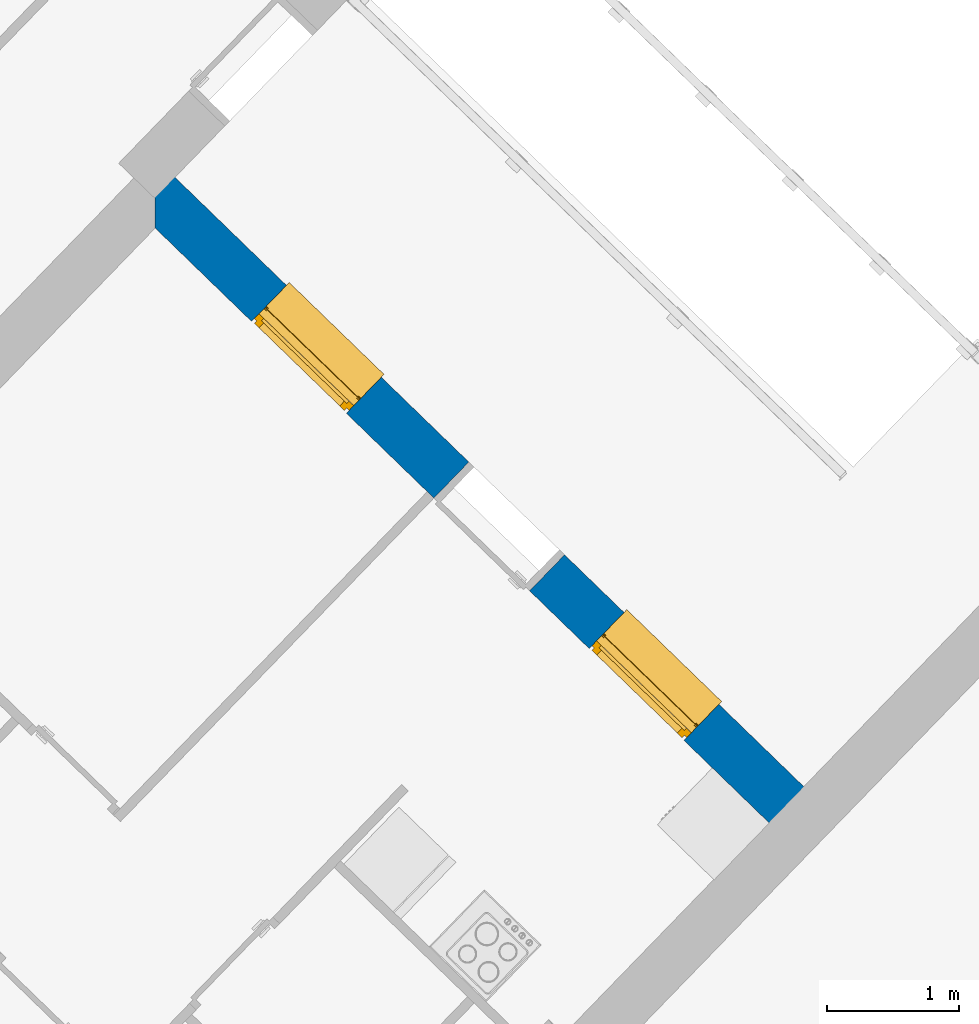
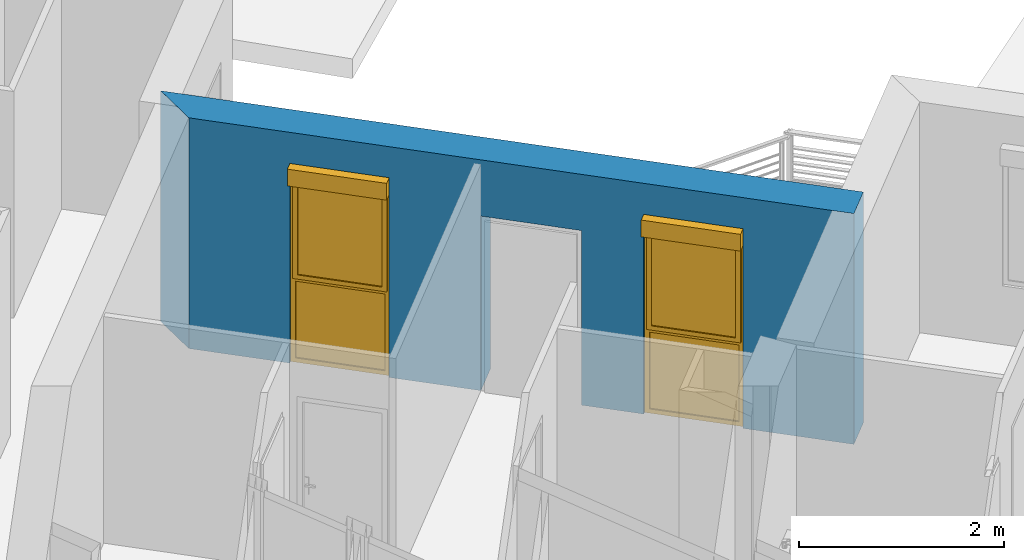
# One storey, part 16 of 121: 2 windows, 1 wall, 3 openings.
"""IFC2X3 building model written with IfcOpenShell, lengths in metres."""

import ifcopenshell
import ifcopenshell.guid

model = None  # the IFC model being written
_history = None  # IfcOwnerHistory: only IFC2X3 demands one
_inside = {}  # id of a spatial element -> (the spatial element, [elements in it])
_under = {}  # id of a project, library or spatial element -> (it, [spatial elements below it])
_declared = {}  # id of a project -> (the project, [libraries it declares])
_typed = {}  # id of a type object -> (the type object, [elements of that type])
_made_of = {}  # id of a material, layer set ... -> (it, [elements and type objects made of it])


def new_model(schema):
    """Start an empty IFC model of exactly this schema.

    Asked for "IFC4X3", IfcOpenShell would pick the latest addendum, in which some entities
    have other attributes; the version numbers below select the first issue.
    IFC2X3 requires an IfcOwnerHistory on every rooted entity: one is made here for all.
    """
    global model, _history
    if schema == "IFC4X3":
        model = ifcopenshell.file(schema_version=(4, 3, 0, 0))
    else:
        model = ifcopenshell.file(schema=schema)
    _inside.clear()
    _under.clear()
    _declared.clear()
    _typed.clear()
    _made_of.clear()
    _history = None
    if model.schema == "IFC2X3":
        org = make("IfcOrganization", Name="unknown")
        user = make(
            "IfcPersonAndOrganization",
            ThePerson=make("IfcPerson", FamilyName="unknown"),
            TheOrganization=org,
        )
        app = make(
            "IfcApplication",
            ApplicationDeveloper=org,
            Version="unknown",
            ApplicationFullName="unknown",
            ApplicationIdentifier="unknown",
        )
        _history = make(
            "IfcOwnerHistory",
            OwningUser=user,
            OwningApplication=app,
            ChangeAction="ADDED",
            CreationDate=0,
        )
    return model


def make(cls, **values):
    """One entity of the class cls with the attributes given. An attribute that is None is left unset."""
    return model.create_entity(
        cls, **{name: value for name, value in values.items() if value is not None}
    )


def entity(cls, *values):
    """Any entity or typed value of the class cls, its attributes in the order of the schema. None: left unset."""
    e = model.create_entity(cls)
    for i, value in enumerate(values):
        if value is not None:
            e[i] = value
    return e


def rooted(cls, **values):
    """An entity with a GlobalId (a new one), such as an element, a storey or a relation."""
    return make(cls, GlobalId=ifcopenshell.guid.new(), OwnerHistory=_history, **values)


def si_unit(unit_type, name, prefix=None):
    """IfcSIUnit, for example si_unit("LENGTHUNIT", "METRE", prefix="MILLI")."""
    return make("IfcSIUnit", UnitType=unit_type, Prefix=prefix, Name=name)


def converted_unit(unit_type, name, factor, base, dimensions=None, offset=None):
    """IfcConversionBasedUnit, such as the inch: factor (a typed value) times the base unit."""
    return make(
        "IfcConversionBasedUnit"
        if offset is None
        else "IfcConversionBasedUnitWithOffset",
        ConversionOffset=offset,
        Dimensions=None
        if dimensions is None
        else entity("IfcDimensionalExponents", *dimensions),
        UnitType=unit_type,
        Name=name,
        ConversionFactor=make(
            "IfcMeasureWithUnit", ValueComponent=factor, UnitComponent=base
        ),
    )


def derived_unit(unit_type, elements):
    """IfcDerivedUnit: a product of units, each with its exponent."""
    return make(
        "IfcDerivedUnit",
        Elements=[
            make("IfcDerivedUnitElement", Unit=unit, Exponent=power)
            for unit, power in elements
        ],
        UnitType=unit_type,
    )


def money_unit(currency):
    """IfcMonetaryUnit."""
    return make("IfcMonetaryUnit", Currency=currency)


def assignment(units):
    """IfcUnitAssignment: the units of a project."""
    return None if units is None else make("IfcUnitAssignment", Units=units)


def point(xyz):
    """IfcCartesianPoint."""
    return None if xyz is None else make("IfcCartesianPoint", Coordinates=xyz)


def direction(xyz):
    """IfcDirection."""
    return None if xyz is None else make("IfcDirection", DirectionRatios=xyz)


def frame(location, z_axis=None, x_axis=None):
    """IfcAxis2Placement3D, a coordinate frame: its origin and axes. An axis left out is left unset."""
    return make(
        "IfcAxis2Placement3D",
        Location=point(location),
        Axis=direction(z_axis),
        RefDirection=direction(x_axis),
    )


def frame_2d(location, x_axis=None):
    """IfcAxis2Placement2D, a coordinate frame in the plane: its origin and x axis."""
    return make(
        "IfcAxis2Placement2D", Location=point(location), RefDirection=direction(x_axis)
    )


def origin_with_axes():
    """The frame at (0, 0, 0) with the z axis (0, 0, 1) and the x axis (1, 0, 0) written out."""
    return frame((0.0, 0.0, 0.0), z_axis=(0.0, 0.0, 1.0), x_axis=(1.0, 0.0, 0.0))


def origin_2d_with_axis():
    """The frame at (0, 0) in the plane with the x axis (1, 0) written out."""
    return frame_2d((0.0, 0.0), x_axis=(1.0, 0.0))


def place(relative_to, where):
    """IfcLocalPlacement: puts the frame where relative to a parent placement (None: the world)."""
    return make(
        "IfcLocalPlacement", PlacementRelTo=relative_to, RelativePlacement=where
    )


def context(
    kind, dimensions, precision=None, world=None, true_north=None, identifier=None
):
    """IfcGeometricRepresentationContext, for example the 3D "Model" context."""
    return make(
        "IfcGeometricRepresentationContext",
        ContextIdentifier=identifier,
        ContextType=kind,
        CoordinateSpaceDimension=dimensions,
        Precision=precision,
        WorldCoordinateSystem=world,
        TrueNorth=true_north,
    )


def subcontext(parent, identifier, kind, view, scale=None):
    """IfcGeometricRepresentationSubContext, for example "Body" below "Model"."""
    return make(
        "IfcGeometricRepresentationSubContext",
        ContextIdentifier=identifier,
        ContextType=kind,
        ParentContext=parent,
        TargetScale=scale,
        TargetView=view,
    )


def project(units=None, contexts=None):
    """IfcProject with its units and contexts."""
    return rooted(
        "IfcProject",
        Name="project",
        RepresentationContexts=contexts,
        UnitsInContext=assignment(units),
    )


def spatial(cls, under=None, at=None, **own):
    """A site, building, storey or space (cls), placed at a placement, below another one or the project."""
    s = rooted(cls, ObjectPlacement=at, **own)
    if under is not None:
        _under.setdefault(under.id(), (under, []))[1].append(s)
    return s


def polyline(points):
    """IfcPolyline through the points."""
    return make("IfcPolyline", Points=[point(p) for p in points])


def profile(cls, at=None, kind="AREA", **sizes):
    """A parametric profile (cls). Its sizes go by their IFC names, for example OverallWidth=200.0."""
    return make(cls, ProfileType=kind, Position=at, **sizes)


def rectangle(**sizes):
    """IfcRectangleProfileDef."""
    return profile("IfcRectangleProfileDef", **sizes)


def outline(outer, holes=None, kind="AREA"):
    """IfcArbitraryClosedProfileDef: a profile drawn as a closed curve; with holes, ...WithVoids."""
    if holes is None:
        return make("IfcArbitraryClosedProfileDef", ProfileType=kind, OuterCurve=outer)
    return make(
        "IfcArbitraryProfileDefWithVoids",
        ProfileType=kind,
        OuterCurve=outer,
        InnerCurves=holes,
    )


def extrude(swept, where, along, depth):
    """IfcExtrudedAreaSolid: the profile swept, set in the frame where, extruded along a direction by depth."""
    return make(
        "IfcExtrudedAreaSolid",
        SweptArea=swept,
        Position=where,
        ExtrudedDirection=direction(along),
        Depth=depth,
    )


def faces_of(points, faces, orient=None, outer=None):
    """IfcFace entities. A face is a list of loops; a loop is a list of indices into points, from 0.

    orient and outer hold one flag for each loop. By default every Orientation is true, the
    first loop of a face is its IfcFaceOuterBound and the others are IfcFaceBound.
    """
    made = []
    for i, loops in enumerate(faces):
        bounds = []
        for j, loop in enumerate(loops):
            is_outer = j == 0 if outer is None else outer[i][j]
            bounds.append(
                make(
                    "IfcFaceOuterBound" if is_outer else "IfcFaceBound",
                    Bound=make("IfcPolyLoop", Polygon=[points[k] for k in loop]),
                    Orientation=True if orient is None else orient[i][j],
                )
            )
        made.append(make("IfcFace", Bounds=bounds))
    return made


def open_shell(faces, orient=None, outer=None):
    """The faces of one IfcOpenShell. surface_model builds it on its shared points."""
    return ("IfcOpenShell", faces, orient, outer)


def faceted_brep(points, faces, orient=None, outer=None, voids=None):
    """IfcFacetedBrep: a solid bounded by flat faces; with voids (closed shells), ...WithVoids."""
    shared = [point(p) for p in points]
    hull = make("IfcClosedShell", CfsFaces=faces_of(shared, faces, orient, outer))
    if voids is None:
        return make("IfcFacetedBrep", Outer=hull)
    return make(
        "IfcFacetedBrepWithVoids",
        Outer=hull,
        Voids=[
            make(cls, CfsFaces=faces_of(shared, fs, o, b)) for cls, fs, o, b in voids
        ],
    )


def surface_model(cls, points, shells):
    """IfcFaceBasedSurfaceModel or IfcShellBasedSurfaceModel (cls): surfaces that need not close."""
    shared = [point(p) for p in points]
    made = [make(c, CfsFaces=faces_of(shared, fs, o, b)) for c, fs, o, b in shells]
    if cls == "IfcFaceBasedSurfaceModel":
        return make(cls, FbsmFaces=made)
    return make(cls, SbsmBoundary=made)


def shape(context_of_items, identifier, shape_type, items):
    """IfcShapeRepresentation: the items that make up one representation, for example the "Body"."""
    return make(
        "IfcShapeRepresentation",
        ContextOfItems=context_of_items,
        RepresentationIdentifier=identifier,
        RepresentationType=shape_type,
        Items=items,
    )


def source(mapping_origin, context_of_items, identifier, shape_type, items):
    """IfcRepresentationMap: a shape defined once, which mapped items show again and again."""
    return make(
        "IfcRepresentationMap",
        MappingOrigin=mapping_origin,
        MappedRepresentation=shape(context_of_items, identifier, shape_type, items),
    )


def transform(
    local_origin,
    x_axis=None,
    y_axis=None,
    z_axis=None,
    scale=None,
    scale2=None,
    scale3=None,
    uniform=True,
):
    """IfcCartesianTransformationOperator3D, or its non-uniform kind. x_axis, y_axis, z_axis: its Axis1, 2, 3."""
    if uniform:
        return make(
            "IfcCartesianTransformationOperator3D",
            Axis1=direction(x_axis),
            Axis2=direction(y_axis),
            LocalOrigin=point(local_origin),
            Scale=scale,
            Axis3=direction(z_axis),
        )
    return make(
        "IfcCartesianTransformationOperator3DnonUniform",
        Axis1=direction(x_axis),
        Axis2=direction(y_axis),
        LocalOrigin=point(local_origin),
        Scale=scale,
        Axis3=direction(z_axis),
        Scale2=scale2,
        Scale3=scale3,
    )


def mapped(mapping_source, mapping_target):
    """IfcMappedItem: shows the shape of a source again, moved by a transform."""
    return make(
        "IfcMappedItem", MappingSource=mapping_source, MappingTarget=mapping_target
    )


def material(Name=None, Category=None):
    """IfcMaterial."""
    return make("IfcMaterial", Name=Name, Category=Category)


def layer(
    of_material, thickness, ventilated=None, Name=None, Category=None, Priority=None
):
    """IfcMaterialLayer: one layer of a wall or slab, of a material (None: an air gap)."""
    return make(
        "IfcMaterialLayer",
        Material=of_material,
        LayerThickness=thickness,
        IsVentilated=ventilated,
        Name=Name,
        Category=Category,
        Priority=Priority,
    )


def layer_set(layers, Name=None):
    """IfcMaterialLayerSet."""
    return make("IfcMaterialLayerSet", MaterialLayers=layers, LayerSetName=Name)


def layer_usage(for_layer_set, set_direction, sense, offset, extent=None):
    """IfcMaterialLayerSetUsage: how a layer set lies in its element."""
    return make(
        "IfcMaterialLayerSetUsage",
        ForLayerSet=for_layer_set,
        LayerSetDirection=set_direction,
        DirectionSense=sense,
        OffsetFromReferenceLine=offset,
        ReferenceExtent=extent,
    )


def made_of(thing, what):
    """Note that an element or type object is made of a material, layer set ...; save() writes the relation."""
    if what is not None:
        _made_of.setdefault(what.id(), (what, []))[1].append(thing)
    return thing


def type_object(cls, material=None, **own):
    """A type object (cls), such as IfcWallType, which elements share."""
    return made_of(rooted(cls, **own), material)


def element(
    cls,
    number,
    at=None,
    inside=None,
    cuts=None,
    type_object=None,
    material=None,
    context=None,
    identifier="Body",
    shape_type=None,
    held_by="IfcProductDefinitionShape",
    body=None,
    shapes=None,
    **own,
):
    """One element of the class cls, such as IfcWall. Its Tag is "e" and its number.

    at: its placement. inside: the storey or other place that contains it. cuts: it is an
    opening in that element (IfcRelVoidsElement). A single representation is given by context,
    identifier, shape_type and body (its items); several are given by shapes. held_by: the class
    of the entity that holds the representations. save() writes the other relations.
    """
    e = rooted(cls, Tag="e%d" % number, ObjectPlacement=at, **own)
    if body is not None:
        shapes = [shape(context, identifier, shape_type, body)]
    if shapes is not None:
        e.Representation = make(held_by, Representations=shapes)
    if inside is not None:
        _inside.setdefault(inside.id(), (inside, []))[1].append(e)
    if cuts is not None:
        rooted(
            "IfcRelVoidsElement", RelatingBuildingElement=cuts, RelatedOpeningElement=e
        )
    if type_object is not None:
        _typed.setdefault(type_object.id(), (type_object, []))[1].append(e)
    return made_of(e, material)


def fill(opening, filler):
    """IfcRelFillsElement: the door or window that sits in an opening."""
    return rooted(
        "IfcRelFillsElement",
        RelatingOpeningElement=opening,
        RelatedBuildingElement=filler,
    )


def aggregate(whole, parts):
    """IfcRelAggregates: a whole, such as a stair, and the parts it consists of."""
    return rooted("IfcRelAggregates", RelatingObject=whole, RelatedObjects=parts)


def save(model, path):
    """Write the relations noted so far, then the file.

    IfcRelAggregates (storeys below a building ...), IfcRelContainedInSpatialStructure (elements
    in a storey), IfcRelDefinesByType, IfcRelAssociatesMaterial and IfcRelDeclares: one each for
    every whole, place, type object, material and project.
    """
    for whole, parts in _under.values():
        aggregate(whole, parts)
    for where, things in _inside.values():
        rooted(
            "IfcRelContainedInSpatialStructure",
            RelatedElements=things,
            RelatingStructure=where,
        )
    for kind, things in _typed.values():
        rooted("IfcRelDefinesByType", RelatedObjects=things, RelatingType=kind)
    for what, things in _made_of.values():
        rooted("IfcRelAssociatesMaterial", RelatedObjects=things, RelatingMaterial=what)
    for by, libraries in _declared.values():
        rooted("IfcRelDeclares", RelatingContext=by, RelatedDefinitions=libraries)
    model.write(path)


model = new_model("IFC2X3")

# Units and contexts
model_context = context("Model", 3, precision=1e-05, world=origin_with_axes(), true_north=direction((0.0, 1.0)))
body_context = subcontext(model_context, "Body", "Model", "MODEL_VIEW")
ifc_project = project(units=[si_unit("LENGTHUNIT", "METRE"), si_unit("AREAUNIT", "SQUARE_METRE"), si_unit("VOLUMEUNIT", "CUBIC_METRE"), converted_unit("PLANEANGLEUNIT", "DEGREE", entity("IfcPlaneAngleMeasure", 0.0174532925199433), si_unit("PLANEANGLEUNIT", "RADIAN"), dimensions=[0, 0, 0, 0, 0, 0, 0]), money_unit("CHF"), converted_unit("TIMEUNIT", "Year", entity("IfcTimeMeasure", 31557600.0), si_unit("TIMEUNIT", "SECOND"), dimensions=[0, 0, 1, 0, 0, 0, 0]), si_unit("MASSUNIT", "GRAM", prefix="KILO"), si_unit("THERMODYNAMICTEMPERATUREUNIT", "DEGREE_CELSIUS"), si_unit("LUMINOUSINTENSITYUNIT", "LUMEN"), si_unit("ENERGYUNIT", "JOULE", prefix="MEGA"), derived_unit("THERMALCONDUCTANCEUNIT", [(si_unit("POWERUNIT", "WATT"), 1), (si_unit("LENGTHUNIT", "METRE"), -1), (si_unit("THERMODYNAMICTEMPERATUREUNIT", "KELVIN"), -1)]), derived_unit("SPECIFICHEATCAPACITYUNIT", [(si_unit("ENERGYUNIT", "JOULE"), 1), (si_unit("MASSUNIT", "GRAM", prefix="KILO"), -1), (si_unit("THERMODYNAMICTEMPERATUREUNIT", "KELVIN"), -1)]), derived_unit("MASSDENSITYUNIT", [(si_unit("MASSUNIT", "GRAM", prefix="KILO"), 1), (si_unit("VOLUMEUNIT", "CUBIC_METRE"), -1)])], contexts=[model_context])

# Site, building, storey
site_placement = place(None, origin_with_axes())
site = spatial("IfcSite", under=ifc_project, at=site_placement, Name="Site", CompositionType="ELEMENT")
building_placement = place(site_placement, origin_with_axes())
building = spatial("IfcBuilding", under=site, at=building_placement, Name="Bâtiment", CompositionType="ELEMENT")
storey_placement = place(building_placement, frame((0.0, 0.0, 2.75), z_axis=(0.0, 0.0, 1.0), x_axis=(1.0, 0.0, 0.0)))
storey = spatial("IfcBuildingStorey", under=building, at=storey_placement, Name="Etage 1", CompositionType="ELEMENT", Elevation=2.75)

# Wall, openings, windows
ifc_material_1 = material(Name="Parpaing 312445824")
ifc_layer_1 = layer(ifc_material_1, 0.22, ventilated="UNKNOWN")
ifc_material_2 = material(Name="Isolant styromousse 301821074")
ifc_layer_2 = layer(ifc_material_2, 0.16, ventilated="UNKNOWN")
ifc_layer_set = layer_set([ifc_layer_1, ifc_layer_2], Name="isol int 22+16 0836643197")
ifc_layer_usage = layer_usage(ifc_layer_set, "AXIS2", "NEGATIVE", 0.0)
wall_type = type_object("IfcWallType", Name="isol int 22+16 0836643197 380", PredefinedType="NOTDEFINED")
wall_placement = place(storey_placement, frame((9525.675768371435, -1058.227304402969, 57.7), z_axis=(0.0, 0.0, 1.0), x_axis=(0.7181763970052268, -0.6958610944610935, 0.0)))
wall = element("IfcWallStandardCase", 1, at=wall_placement, inside=storey, type_object=wall_type, material=ifc_layer_usage, Name="Mur-113", context=body_context, shape_type="SweptSolid", body=[
    extrude(outline(polyline([(0.3799999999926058, -0.3799999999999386), (7.073994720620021, -0.3799999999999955), (7.073994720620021, 0.0), (0.0, 0.0), (0.3799999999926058, -0.3799999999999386)])), origin_with_axes(), (0.0, 0.0, 1.0), 2.75),
])
opening_1_placement = place(wall_placement, frame((5.457947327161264, 0.0, 0.0), z_axis=(0.0, 0.0, 1.0), x_axis=(1.0, 0.0, 0.0)))
opening_1 = element("IfcOpeningElement", 2, at=opening_1_placement, cuts=wall, Name="Fen-057", context=body_context, shape_type="Brep", body=[
    faceted_brep([(-0.5, -0.2200000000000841, 2.18), (0.5, -0.220000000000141, 2.18), (0.4999999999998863, 3.536236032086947, 2.18), (-0.5, 3.53623603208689, 2.18), (-0.5, -0.2200000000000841, 2.380000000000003), (0.5, -0.220000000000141, 2.380000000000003), (0.5000000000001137, -0.3000000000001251, 2.18), (0.5000000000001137, -0.3000000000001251, 0.0), (0.4999999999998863, 3.536236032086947, 0.0), (-0.5, 3.53623603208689, 0.0), (-0.4999999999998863, -0.3000000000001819, 2.18), (-0.5, -0.3000000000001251, 0.0), (-0.5, -0.480000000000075, 2.18), (-0.5, -0.480000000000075, 2.380000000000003), (0.5, -0.4800000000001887, 2.380000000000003), (0.5, -0.4800000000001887, 2.18), (0.5, -3.916236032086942, 2.18), (0.5, -3.916236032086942, 0.0), (-0.5000000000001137, -3.916236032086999, 0.0), (-0.5000000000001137, -3.916236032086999, 2.18)], [[[0, 1, 2, 3]], [[1, 0, 4, 5]], [[1, 6, 7, 8, 2]], [[2, 8, 9, 3]], [[10, 0, 3, 9, 11]], [[0, 10, 12, 13, 4]], [[4, 13, 14, 5]], [[6, 1, 5, 14, 15]], [[6, 15, 16, 17, 7]], [[11, 9, 8, 7, 17, 18]], [[12, 10, 11, 18, 19]], [[12, 15, 14, 13]], [[15, 12, 19, 16]], [[19, 18, 17, 16]]]),
])
opening_2_placement = place(wall_placement, frame((1.896411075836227, 0.0, 0.0), z_axis=(0.0, 0.0, 1.0), x_axis=(1.0, 0.0, 0.0)))
opening_2 = element("IfcOpeningElement", 3, at=opening_2_placement, cuts=wall, Name="Fen-057", context=body_context, shape_type="Brep", body=[
    faceted_brep([(-0.5, -0.2200000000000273, 2.18), (0.4999999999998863, -0.220000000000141, 2.18), (0.4999999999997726, 3.536236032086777, 2.18), (-0.5000000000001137, 3.53623603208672, 2.18), (-0.5, -0.2200000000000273, 2.380000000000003), (0.4999999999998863, -0.220000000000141, 2.380000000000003), (0.4999999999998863, -0.3000000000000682, 2.18), (0.4999999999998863, -0.3000000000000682, 0.0), (0.4999999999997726, 3.536236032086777, 0.0), (-0.5000000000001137, 3.53623603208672, 0.0), (-0.5000000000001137, -0.3000000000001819, 2.18), (-0.5000000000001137, -0.3000000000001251, 0.0), (-0.5000000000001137, -0.480000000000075, 2.18), (-0.5000000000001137, -0.480000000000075, 2.380000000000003), (0.5, -0.4800000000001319, 2.380000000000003), (0.5, -0.4800000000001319, 2.18), (0.4999999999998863, -3.916236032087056, 2.18), (0.4999999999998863, -3.916236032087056, 0.0), (-0.5000000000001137, -3.916236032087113, 0.0), (-0.5000000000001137, -3.916236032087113, 2.18)], [[[0, 1, 2, 3]], [[1, 0, 4, 5]], [[1, 6, 7, 8, 2]], [[2, 8, 9, 3]], [[10, 0, 3, 9, 11]], [[0, 10, 12, 13, 4]], [[4, 13, 14, 5]], [[6, 1, 5, 14, 15]], [[6, 15, 16, 17, 7]], [[11, 9, 8, 7, 17, 18]], [[12, 10, 11, 18, 19]], [[12, 15, 14, 13]], [[15, 12, 19, 16]], [[19, 18, 17, 16]]]),
])
opening_3_placement = place(wall_placement, frame((3.824898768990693, 0.0, 0.0), z_axis=(0.0, 0.0, 1.0), x_axis=(1.0, 0.0, 0.0)))
element("IfcOpeningElement", 4, at=opening_3_placement, cuts=wall, Name="Por-297", context=body_context, shape_type="SweptSolid", body=[
    extrude(rectangle(XDim=1.01000001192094, YDim=2.079999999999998, at=origin_2d_with_axis()), frame((-5.960373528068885e-09, 0.3799999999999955, 1.039999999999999), z_axis=(0.0, -1.0, 0.0), x_axis=(-1.0, 0.0, 0.0)), (0.0, 0.0, 1.0), 0.76),
])
window_style = type_object("IfcWindowStyle", Name="Fenêtre variable 27", ConstructionType="NOTDEFINED", OperationType="DOUBLE_PANEL_HORIZONTAL", ParameterTakesPrecedence=False, Sizeable=False)
shared_shape = source(origin_with_axes(), body_context, "Body", "SurfaceModel", [
    surface_model("IfcShellBasedSurfaceModel", [(-0.5, -0.05100000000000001, 0.05), (-0.5, -0.05100000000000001, 0.04), (0.5, -0.05100000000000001, 0.04000000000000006), (0.5, -0.05100000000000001, 0.05000000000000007), (-0.5, -0.3799999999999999, 0.02899999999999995), (0.5, -0.3799999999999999, 0.02900000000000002), (-0.5, -0.3799999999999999, 0.008999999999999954), (0.5, -0.3799999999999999, 0.009000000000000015), (-0.5, -0.3699999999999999, 0.01899999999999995), (0.5, -0.3699999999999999, 0.01900000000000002)], [open_shell([[[0, 1, 2, 3]], [[1, 4, 5, 2]], [[4, 6, 7, 5]], [[6, 8, 9, 7]]])]),
    faceted_brep([(-0.5, -0.13, 2.38), (-0.497, -0.13, 2.38), (-0.497, 0.13, 2.38), (-0.5, 0.13, 2.38), (-0.5, -0.13, 2.18), (-0.497, -0.13, 2.18), (-0.497, 0.13, 2.18), (-0.5, 0.13, 2.18)], [[[0, 1, 2, 3]], [[4, 5, 1, 0]], [[1, 5, 6, 2]], [[3, 2, 6, 7]], [[0, 3, 7, 4]], [[7, 6, 5, 4]]]),
    faceted_brep([(0.497, -0.1299999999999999, 2.38), (0.5, -0.1299999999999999, 2.38), (0.5, 0.1300000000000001, 2.38), (0.497, 0.1300000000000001, 2.38), (0.497, -0.1299999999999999, 2.18), (0.5, -0.1299999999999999, 2.18), (0.5, 0.1300000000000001, 2.18), (0.497, 0.1300000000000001, 2.18)], [[[0, 1, 2, 3]], [[4, 5, 1, 0]], [[1, 5, 6, 2]], [[3, 2, 6, 7]], [[0, 3, 7, 4]], [[7, 6, 5, 4]]]),
    faceted_brep([(-0.497, -0.13, 2.18), (0.497, -0.1299999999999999, 2.18), (0.497, -0.1299999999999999, 2.38), (-0.497, -0.13, 2.38), (-0.497, -0.127, 2.18), (0.497, -0.1269999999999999, 2.18), (0.497, -0.1269999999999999, 2.377), (0.497, 0.1270000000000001, 2.377), (0.497, 0.1270000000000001, 2.183), (0.497, -0.1079999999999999, 2.183), (0.497, -0.1079999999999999, 2.18), (0.497, 0.1300000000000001, 2.18), (0.497, 0.1300000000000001, 2.38), (-0.497, 0.13, 2.38), (-0.497, 0.13, 2.18), (-0.497, -0.108, 2.18), (-0.497, -0.108, 2.183), (-0.497, 0.127, 2.183), (-0.497, 0.127, 2.377), (-0.497, -0.127, 2.377)], [[[0, 1, 2, 3]], [[4, 5, 1, 0]], [[1, 5, 6, 7, 8, 9, 10, 11, 12, 2]], [[3, 2, 12, 13]], [[0, 3, 13, 14, 15, 16, 17, 18, 19, 4]], [[19, 6, 5, 4]], [[18, 7, 6, 19]], [[17, 8, 7, 18]], [[16, 9, 8, 17]], [[15, 10, 9, 16]], [[14, 11, 10, 15]], [[13, 12, 11, 14]]]),
    faceted_brep([(-0.494, -0.08075423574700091, 2.265760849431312), (-0.494, -0.082, 2.28), (-0.494, -0.08075423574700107, 2.294239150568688), (-0.494, -0.07705479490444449, 2.308045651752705), (-0.494, -0.07101408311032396, 2.321), (-0.494, -0.0628156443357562, 2.332708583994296), (-0.494, -0.05270858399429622, 2.342815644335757), (-0.494, -0.041, 2.351014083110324), (-0.494, -0.02804565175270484, 2.357054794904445), (-0.494, -0.0142391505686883, 2.360754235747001), (-0.494, 0.0, 2.362), (-0.494, 0.01423915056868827, 2.360754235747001), (-0.494, 0.02804565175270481, 2.357054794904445), (-0.494, 0.04099999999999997, 2.351014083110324), (-0.494, 0.05270858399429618, 2.342815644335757), (-0.494, 0.06281564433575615, 2.332708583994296), (-0.494, 0.07101408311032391, 2.321), (-0.494, 0.07705479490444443, 2.308045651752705), (-0.494, 0.080754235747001, 2.294239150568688), (-0.494, 0.08199999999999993, 2.28), (-0.494, 0.08075423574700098, 2.265760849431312), (-0.494, 0.07705479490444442, 2.251954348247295), (-0.494, 0.0710140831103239, 2.239), (-0.494, 0.06281564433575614, 2.227291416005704), (-0.494, 0.05270858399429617, 2.217184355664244), (-0.494, 0.04099999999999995, 2.208985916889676), (-0.494, 0.02804565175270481, 2.202945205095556), (-0.494, 0.01423915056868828, 2.199245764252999), (-0.494, 0.0, 2.198), (-0.494, -0.01423915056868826, 2.199245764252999), (-0.494, -0.02804565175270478, 2.202945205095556), (-0.494, -0.04099999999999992, 2.208985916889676), (-0.494, -0.05270858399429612, 2.217184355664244), (-0.494, -0.06281564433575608, 2.227291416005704), (-0.494, -0.07101408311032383, 2.239), (-0.494, -0.07705479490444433, 2.251954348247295), (0.494, -0.08075423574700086, 2.265760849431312), (0.494, -0.08199999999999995, 2.28), (0.494, -0.08075423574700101, 2.294239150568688), (0.494, -0.07705479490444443, 2.308045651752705), (0.494, -0.07101408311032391, 2.321), (0.494, -0.06281564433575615, 2.332708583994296), (0.494, -0.05270858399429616, 2.342815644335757), (0.494, -0.04099999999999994, 2.351014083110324), (0.494, -0.02804565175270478, 2.357054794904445), (0.494, -0.01423915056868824, 2.360754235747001), (0.494, 0.0, 2.362), (0.494, 0.01423915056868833, 2.360754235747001), (0.494, 0.02804565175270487, 2.357054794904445), (0.494, 0.04100000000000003, 2.351014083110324), (0.494, 0.05270858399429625, 2.342815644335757), (0.494, 0.0628156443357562, 2.332708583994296), (0.494, 0.07101408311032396, 2.321), (0.494, 0.07705479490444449, 2.308045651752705), (0.494, 0.08075423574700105, 2.294239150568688), (0.494, 0.08199999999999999, 2.28), (0.494, 0.08075423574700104, 2.265760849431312), (0.494, 0.07705479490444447, 2.251954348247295), (0.494, 0.07101408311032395, 2.239), (0.494, 0.06281564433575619, 2.227291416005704), (0.494, 0.05270858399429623, 2.217184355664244), (0.494, 0.04100000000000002, 2.208985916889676), (0.494, 0.02804565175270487, 2.202945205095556), (0.494, 0.01423915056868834, 2.199245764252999), (0.494, 0.0, 2.198), (0.494, -0.01423915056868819, 2.199245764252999), (0.494, -0.02804565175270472, 2.202945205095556), (0.494, -0.04099999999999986, 2.208985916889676), (0.494, -0.05270858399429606, 2.217184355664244), (0.494, -0.06281564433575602, 2.227291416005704), (0.494, -0.07101408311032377, 2.239), (0.494, -0.07705479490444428, 2.251954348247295)], [[[0, 1, 2, 3, 4, 5, 6, 7, 8, 9, 10, 11, 12, 13, 14, 15, 16, 17, 18, 19, 20, 21, 22, 23, 24, 25, 26, 27, 28, 29, 30, 31, 32, 33, 34, 35]], [[0, 36, 37, 1]], [[1, 37, 38, 2]], [[2, 38, 39, 3]], [[3, 39, 40, 4]], [[4, 40, 41, 5]], [[5, 41, 42, 6]], [[6, 42, 43, 7]], [[7, 43, 44, 8]], [[8, 44, 45, 9]], [[9, 45, 46, 10]], [[10, 46, 47, 11]], [[11, 47, 48, 12]], [[12, 48, 49, 13]], [[13, 49, 50, 14]], [[14, 50, 51, 15]], [[15, 51, 52, 16]], [[16, 52, 53, 17]], [[17, 53, 54, 18]], [[18, 54, 55, 19]], [[19, 55, 56, 20]], [[20, 56, 57, 21]], [[21, 57, 58, 22]], [[22, 58, 59, 23]], [[23, 59, 60, 24]], [[24, 60, 61, 25]], [[25, 61, 62, 26]], [[26, 62, 63, 27]], [[27, 63, 64, 28]], [[28, 64, 65, 29]], [[29, 65, 66, 30]], [[30, 66, 67, 31]], [[31, 67, 68, 32]], [[32, 68, 69, 33]], [[33, 69, 70, 34]], [[34, 70, 71, 35]], [[35, 71, 36, 0]], [[36, 71, 70, 69, 68, 67, 66, 65, 64, 63, 62, 61, 60, 59, 58, 57, 56, 55, 54, 53, 52, 51, 50, 49, 48, 47, 46, 45, 44, 43, 42, 41, 40, 39, 38, 37]]]),
    faceted_brep([(0.5, -0.105, 0.03), (0.5, -0.1049999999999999, 2.18), (0.5, -0.1299999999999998, 2.18), (0.5, -0.13, 0.03), (0.475, -0.105, 0.03), (0.475, -0.1049999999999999, 2.18), (0.475, -0.1079999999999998, 2.18), (0.497, -0.1079999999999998, 2.18), (0.497, -0.1269999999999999, 2.18), (0.475, -0.1269999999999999, 2.18), (0.475, -0.1299999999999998, 2.18), (0.475, -0.13, 0.03), (0.475, -0.127, 0.03), (0.497, -0.127, 0.03), (0.497, -0.108, 0.03), (0.475, -0.108, 0.03)], [[[0, 1, 2, 3]], [[4, 5, 1, 0]], [[1, 5, 6, 7, 8, 9, 10, 2]], [[3, 2, 10, 11]], [[0, 3, 11, 12, 13, 14, 15, 4]], [[15, 6, 5, 4]], [[14, 7, 6, 15]], [[13, 8, 7, 14]], [[12, 9, 8, 13]], [[11, 10, 9, 12]]]),
    faceted_brep([(-0.5, -0.105, 0.03), (-0.5, -0.13, 0.03), (-0.5, -0.1299999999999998, 2.18), (-0.5, -0.1049999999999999, 2.18), (-0.475, -0.105, 0.03), (-0.475, -0.108, 0.03), (-0.497, -0.108, 0.03), (-0.497, -0.127, 0.03), (-0.475, -0.127, 0.03), (-0.475, -0.13, 0.03), (-0.475, -0.1299999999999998, 2.18), (-0.475, -0.1269999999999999, 2.18), (-0.497, -0.1269999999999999, 2.18), (-0.497, -0.1079999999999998, 2.18), (-0.475, -0.1079999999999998, 2.18), (-0.475, -0.1049999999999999, 2.18)], [[[0, 1, 2, 3]], [[0, 4, 5, 6, 7, 8, 9, 1]], [[1, 9, 10, 2]], [[3, 2, 10, 11, 12, 13, 14, 15]], [[4, 0, 3, 15]], [[5, 4, 15, 14]], [[6, 5, 14, 13]], [[7, 6, 13, 12]], [[8, 7, 12, 11]], [[9, 8, 11, 10]]]),
    surface_model("IfcShellBasedSurfaceModel", [(-0.497, -0.115, 2.28), (0.497, -0.1149999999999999, 2.28), (0.497, -0.1199999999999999, 2.28), (-0.497, -0.12, 2.28), (-0.497, -0.115, 2.28), (-0.497, -0.12, 2.28), (0.497, -0.1199999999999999, 2.28), (0.497, -0.1149999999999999, 2.28)], [open_shell([[[0, 1, 2, 3]], [[4, 5, 6, 7]]])]),
    faceted_brep([(-0.497, -0.115, 2.28), (0.497, -0.1149999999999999, 2.28), (0.497, -0.1166666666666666, 2.263333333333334), (-0.497, -0.1166666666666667, 2.263333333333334), (-0.497, -0.12, 2.28), (0.497, -0.1199999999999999, 2.28), (0.497, -0.1216666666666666, 2.263333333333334), (0.497, -0.1216666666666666, 2.246666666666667), (0.497, -0.1199999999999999, 2.23), (0.497, -0.1149999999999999, 2.23), (0.497, -0.1166666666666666, 2.246666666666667), (-0.497, -0.1166666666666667, 2.246666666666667), (-0.497, -0.115, 2.23), (-0.497, -0.12, 2.23), (-0.497, -0.1216666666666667, 2.246666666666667), (-0.497, -0.1216666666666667, 2.263333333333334)], [[[0, 1, 2, 3]], [[4, 5, 1, 0]], [[1, 5, 6, 7, 8, 9, 10, 2]], [[3, 2, 10, 11]], [[0, 3, 11, 12, 13, 14, 15, 4]], [[15, 6, 5, 4]], [[14, 7, 6, 15]], [[13, 8, 7, 14]], [[12, 9, 8, 13]], [[11, 10, 9, 12]]]),
    faceted_brep([(-0.497, -0.115, 2.23), (0.497, -0.1149999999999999, 2.23), (0.497, -0.1166666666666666, 2.213333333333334), (-0.497, -0.1166666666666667, 2.213333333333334), (-0.497, -0.12, 2.23), (0.497, -0.1199999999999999, 2.23), (0.497, -0.1216666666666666, 2.213333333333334), (0.497, -0.1216666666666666, 2.196666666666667), (0.497, -0.1199999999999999, 2.180000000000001), (0.497, -0.1149999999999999, 2.180000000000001), (0.497, -0.1166666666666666, 2.196666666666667), (-0.497, -0.1166666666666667, 2.196666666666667), (-0.497, -0.115, 2.180000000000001), (-0.497, -0.12, 2.180000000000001), (-0.497, -0.1216666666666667, 2.196666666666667), (-0.497, -0.1216666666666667, 2.213333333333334)], [[[0, 1, 2, 3]], [[4, 5, 1, 0]], [[1, 5, 6, 7, 8, 9, 10, 2]], [[3, 2, 10, 11]], [[0, 3, 11, 12, 13, 14, 15, 4]], [[15, 6, 5, 4]], [[14, 7, 6, 15]], [[13, 8, 7, 14]], [[12, 9, 8, 13]], [[11, 10, 9, 12]]]),
    faceted_brep([(-0.475, 0.0, 2.13), (-0.5, 0.0, 2.13), (-0.5, -0.05000000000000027, 2.13), (-0.45, -0.05000000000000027, 2.13), (-0.45, -0.02500000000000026, 2.13), (-0.475, -0.02500000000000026, 2.13), (-0.475, 0.0, 1.01), (-0.45, 0.0, 1.01), (-0.45, 0.0, 0.965), (-0.45, 0.0, 0.05000000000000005), (-0.5, 0.0, 0.05000000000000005), (-0.5, -0.05000000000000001, 0.05000000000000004), (-0.45, -0.05000000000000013, 1.035), (-0.45, -0.05000000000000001, 0.05000000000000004), (-0.45, -0.05000000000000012, 0.965), (-0.45, -0.02500000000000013, 1.035), (-0.45, -0.02500000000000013, 1.01), (-0.475, -0.02500000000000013, 1.01)], [[[0, 1, 2, 3, 4, 5]], [[6, 7, 8, 9, 10, 1, 0]], [[1, 10, 11, 2]], [[12, 3, 2, 11, 13, 14]], [[4, 3, 12, 15]], [[15, 16, 17, 5, 4]], [[5, 17, 6, 0]], [[6, 17, 16, 7]], [[16, 15, 12, 14, 8, 7]], [[9, 8, 14, 13]], [[10, 9, 13, 11]]]),
    faceted_brep([(0.45, -0.02500000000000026, 2.13), (0.45, -0.05000000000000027, 2.13), (0.5, -0.05000000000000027, 2.13), (0.5, 0.0, 2.13), (0.475, 0.0, 2.13), (0.475, -0.02500000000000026, 2.13), (0.45, -0.02500000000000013, 1.035), (0.45, -0.05000000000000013, 1.035), (0.5, -0.05000000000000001, 0.05000000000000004), (0.45, -0.05000000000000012, 0.965), (0.45, -0.05000000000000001, 0.05000000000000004), (0.5, 0.0, 0.05000000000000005), (0.475, 0.0, 1.01), (0.45, 0.0, 0.05000000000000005), (0.45, 0.0, 0.965), (0.45, 0.0, 1.01), (0.475, -0.02500000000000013, 1.01), (0.45, -0.02500000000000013, 1.01)], [[[0, 1, 2, 3, 4, 5]], [[6, 7, 1, 0]], [[8, 2, 1, 7, 9, 10]], [[11, 3, 2, 8]], [[12, 4, 3, 11, 13, 14, 15]], [[12, 16, 5, 4]], [[5, 16, 17, 6, 0]], [[17, 15, 14, 9, 7, 6]], [[14, 13, 10, 9]], [[13, 11, 8, 10]], [[15, 17, 16, 12]]]),
    faceted_brep([(-0.45, -0.02500000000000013, 1.035), (-0.45, -0.05000000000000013, 1.035), (0.45, -0.05000000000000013, 1.035), (0.45, -0.02500000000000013, 1.035), (-0.45, -0.02500000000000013, 1.01), (-0.45, 0.0, 1.01), (-0.45, 0.0, 0.965), (-0.45, -0.05000000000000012, 0.965), (0.45, -0.05000000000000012, 0.965), (0.45, -0.02500000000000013, 1.01), (0.45, 0.0, 0.965), (0.45, 0.0, 1.01)], [[[0, 1, 2, 3]], [[4, 5, 6, 7, 1, 0]], [[8, 2, 1, 7]], [[9, 3, 2, 8, 10, 11]], [[9, 4, 0, 3]], [[5, 4, 9, 11]], [[11, 10, 6, 5]], [[6, 10, 8, 7]]]),
    faceted_brep([(-0.475, 0.0, 2.13), (-0.5, 0.0, 2.13), (-0.5, 0.0, 2.18), (0.5, 0.0, 2.18), (0.5, 0.0, 2.13), (0.475, 0.0, 2.13), (0.475, 0.0, 2.155), (-0.475, 0.0, 2.155), (-0.475, -0.02500000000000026, 2.13), (-0.45, -0.02500000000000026, 2.13), (-0.45, -0.05000000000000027, 2.13), (-0.5, -0.05000000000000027, 2.13), (-0.5, -0.05000000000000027, 2.18), (0.5, -0.05000000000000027, 2.18), (0.5, -0.05000000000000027, 2.13), (0.475, -0.02500000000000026, 2.13), (0.45, -0.05000000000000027, 2.13), (0.45, -0.02500000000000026, 2.13), (0.475, -0.02500000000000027, 2.155), (-0.475, -0.02500000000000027, 2.155)], [[[0, 1, 2, 3, 4, 5, 6, 7]], [[8, 9, 10, 11, 1, 0]], [[2, 1, 11, 12]], [[3, 2, 12, 13]], [[4, 3, 13, 14]], [[15, 5, 4, 14, 16, 17]], [[5, 15, 18, 6]], [[6, 18, 19, 7]], [[7, 19, 8, 0]], [[17, 9, 8, 19, 18, 15]], [[17, 16, 10, 9]], [[14, 13, 12, 11, 10, 16]]]),
    faceted_brep([(-0.45, -0.05000000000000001, 0.05), (-0.45, 0.0, 0.05000000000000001), (-0.5, 0.0, 0.05000000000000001), (-0.5, -0.05000000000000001, 0.05), (0.45, -0.05000000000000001, 0.05), (0.45, 0.0, 0.05000000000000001), (0.5, 0.0, 0.05000000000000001), (0.5, 0.0, 0.0), (-0.5, 0.0, 0.0), (-0.5, -0.05, 0.0), (0.5, -0.05, 0.0), (0.5, -0.05000000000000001, 0.05)], [[[0, 1, 2, 3]], [[4, 5, 1, 0]], [[1, 5, 6, 7, 8, 2]], [[3, 2, 8, 9]], [[0, 3, 9, 10, 11, 4]], [[11, 6, 5, 4]], [[10, 7, 6, 11]], [[9, 8, 7, 10]]]),
    faceted_brep([(-0.425, -0.02500000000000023, 2.105), (-0.425, 0.02499999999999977, 2.105), (-0.475, 0.02499999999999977, 2.105), (-0.475, -0.02500000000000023, 2.105), (-0.425, -0.02500000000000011, 1.06), (-0.425, 0.0249999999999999, 1.06), (-0.475, 0.0249999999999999, 1.06), (-0.475, -0.0250000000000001, 1.06)], [[[0, 1, 2, 3]], [[4, 5, 1, 0]], [[1, 5, 6, 2]], [[3, 2, 6, 7]], [[0, 3, 7, 4]], [[7, 6, 5, 4]]]),
    faceted_brep([(0.425, -0.02500000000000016, 1.06), (0.425, 0.02499999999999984, 1.06), (0.475, 0.02499999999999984, 1.06), (0.475, -0.02500000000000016, 1.06), (0.425, -0.02500000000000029, 2.105), (0.425, 0.02499999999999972, 2.105), (0.475, 0.02499999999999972, 2.105), (0.475, -0.02500000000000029, 2.105)], [[[0, 1, 2, 3]], [[4, 5, 1, 0]], [[1, 5, 6, 2]], [[3, 2, 6, 7]], [[0, 3, 7, 4]], [[7, 6, 5, 4]]]),
    faceted_brep([(0.475, -0.02500000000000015, 1.01), (0.475, 0.02499999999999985, 1.01), (0.475, 0.02499999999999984, 1.06), (0.475, -0.02500000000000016, 1.06), (-0.475, -0.0250000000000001, 1.01), (-0.475, 0.0249999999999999, 1.01), (-0.475, 0.0249999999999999, 1.06), (-0.425, 0.0249999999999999, 1.06), (0.425, 0.02499999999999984, 1.06), (0.425, -0.02500000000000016, 1.06), (-0.425, -0.02500000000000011, 1.06), (-0.475, -0.0250000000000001, 1.06)], [[[0, 1, 2, 3]], [[4, 5, 1, 0]], [[1, 5, 6, 7, 8, 2]], [[3, 2, 8, 9]], [[0, 3, 9, 10, 11, 4]], [[11, 6, 5, 4]], [[10, 7, 6, 11]], [[9, 8, 7, 10]]]),
    faceted_brep([(-0.475, -0.02500000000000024, 2.155), (-0.475, 0.02499999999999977, 2.155), (-0.475, 0.02499999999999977, 2.105), (-0.475, -0.02500000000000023, 2.105), (0.475, -0.0250000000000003, 2.155), (0.475, 0.02499999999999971, 2.155), (0.475, 0.02499999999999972, 2.105), (0.425, 0.02499999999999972, 2.105), (-0.425, 0.02499999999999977, 2.105), (-0.425, -0.02500000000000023, 2.105), (0.425, -0.02500000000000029, 2.105), (0.475, -0.02500000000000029, 2.105)], [[[0, 1, 2, 3]], [[4, 5, 1, 0]], [[1, 5, 6, 7, 8, 2]], [[3, 2, 8, 9]], [[0, 3, 9, 10, 11, 4]], [[11, 6, 5, 4]], [[10, 7, 6, 11]], [[9, 8, 7, 10]]]),
    surface_model("IfcShellBasedSurfaceModel", [(-0.425, -0.01000000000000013, 1.06), (0.425, -0.01000000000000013, 1.06), (0.425, -0.01000000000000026, 2.105), (-0.425, -0.01000000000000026, 2.105)], [open_shell([[[0, 1, 2, 3]]])]),
    surface_model("IfcShellBasedSurfaceModel", [(-0.425, 0.009999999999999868, 1.06), (-0.425, 0.00999999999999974, 2.105), (0.425, 0.00999999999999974, 2.105), (0.425, 0.009999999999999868, 1.06)], [open_shell([[[0, 1, 2, 3]]])]),
    surface_model("IfcShellBasedSurfaceModel", [(-0.45, -0.035, 0.05), (0.45, -0.035, 0.05), (0.45, -0.03500000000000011, 0.965), (-0.45, -0.03500000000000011, 0.965)], [open_shell([[[0, 1, 2, 3]]])]),
    surface_model("IfcShellBasedSurfaceModel", [(-0.45, -0.015, 0.05), (-0.45, -0.01500000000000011, 0.965), (0.45, -0.01500000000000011, 0.965), (0.45, -0.015, 0.05)], [open_shell([[[0, 1, 2, 3]]])]),
])
window_1_placement = place(opening_1_placement, frame((0.4999999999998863, 0.0, 0.0), z_axis=(0.0, 0.0, 1.0), x_axis=(-1.0, 0.0, 0.0)))
window_1 = element("IfcWindow", 5, at=window_1_placement, inside=storey, type_object=window_style, Name="Fen-057", OverallHeight=2.18, OverallWidth=1.0, context=body_context, shape_type="MappedRepresentation", body=[
    mapped(shared_shape, transform((0.5000000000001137, 0.3500000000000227, 0.0))),
])
fill(opening_1, window_1)
window_2_placement = place(opening_2_placement, frame((0.4999999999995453, 0.0, 0.0), z_axis=(0.0, 0.0, 1.0), x_axis=(-1.0, 0.0, 0.0)))
window_2 = element("IfcWindow", 6, at=window_2_placement, inside=storey, type_object=window_style, Name="Fen-057", OverallHeight=2.18, OverallWidth=1.0, context=body_context, shape_type="MappedRepresentation", body=[
    mapped(shared_shape, transform((0.5000000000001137, 0.3500000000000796, 0.0))),
])
fill(opening_2, window_2)

save(model, "model.ifc")
